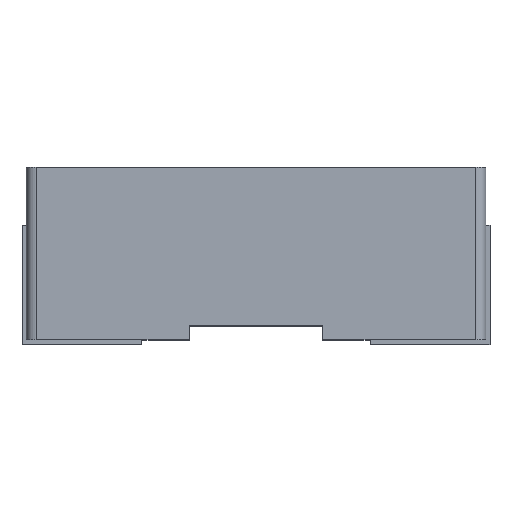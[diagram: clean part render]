
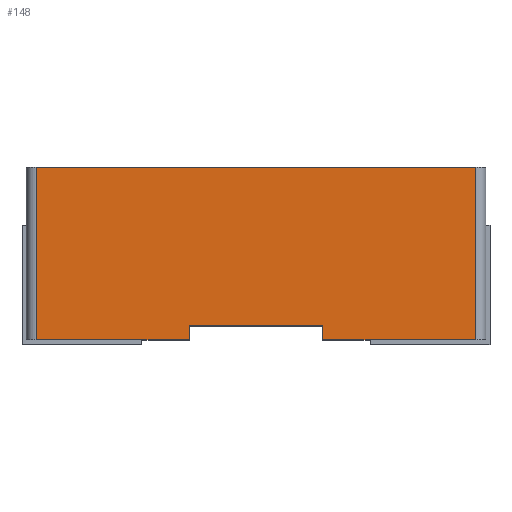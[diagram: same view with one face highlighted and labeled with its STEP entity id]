
A CAD part, top view. The second image highlights one B-rep face of the part: STEP entity #148.
In plain terms, the highlighted planar face has unit normal (0, 0, 1).
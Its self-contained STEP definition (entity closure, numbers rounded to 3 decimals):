
#14 = CARTESIAN_POINT ( 'NONE',  ( 0.07, 0.604, 0.364 ) ) ;
#18 = CARTESIAN_POINT ( 'NONE',  ( 3.2, 0.604, 0.364 ) ) ;
#38 = CARTESIAN_POINT ( 'NONE',  ( 3.2, -0.596, 0.364 ) ) ;
#42 = LINE ( 'NONE', #827, #527 ) ;
#92 = DIRECTION ( 'NONE',  ( 0., 1., 0. ) ) ;
#93 = DIRECTION ( 'NONE',  ( 0., 0., -1. ) ) ;
#95 = EDGE_CURVE ( 'NONE', #386, #423, #317, .T. ) ;
#100 = VECTOR ( 'NONE', #390, 1000. ) ;
#107 = EDGE_CURVE ( 'NONE', #467, #122, #304, .T. ) ;
#114 = VERTEX_POINT ( 'NONE', #656 ) ;
#122 = VERTEX_POINT ( 'NONE', #249 ) ;
#129 = LINE ( 'NONE', #847, #898 ) ;
#148 = ADVANCED_FACE ( 'NONE', ( #619 ), #388, .F. ) ;
#179 = VERTEX_POINT ( 'NONE', #550 ) ;
#193 = ORIENTED_EDGE ( 'NONE', *, *, #719, .F. ) ;
#249 = CARTESIAN_POINT ( 'NONE',  ( 2.065, -0.496, 0.364 ) ) ;
#302 = CARTESIAN_POINT ( 'NONE',  ( 2.065, -0.596, 0.364 ) ) ;
#304 = LINE ( 'NONE', #724, #100 ) ;
#305 = VECTOR ( 'NONE', #369, 1000. ) ;
#315 = CARTESIAN_POINT ( 'NONE',  ( 2.065, 0.604, 0.364 ) ) ;
#317 = LINE ( 'NONE', #653, #809 ) ;
#322 = VERTEX_POINT ( 'NONE', #690 ) ;
#362 = VECTOR ( 'NONE', #394, 1000. ) ;
#369 = DIRECTION ( 'NONE',  ( -1., 0., 0. ) ) ;
#386 = VERTEX_POINT ( 'NONE', #14 ) ;
#388 = PLANE ( 'NONE',  #407 ) ;
#390 = DIRECTION ( 'NONE',  ( 1., 0., 0. ) ) ;
#394 = DIRECTION ( 'NONE',  ( -1., 0., 0. ) ) ;
#402 = EDGE_CURVE ( 'NONE', #322, #386, #42, .T. ) ;
#407 = AXIS2_PLACEMENT_3D ( 'NONE', #18, #93, #789 ) ;
#423 = VERTEX_POINT ( 'NONE', #842 ) ;
#431 = LINE ( 'NONE', #507, #305 ) ;
#467 = VERTEX_POINT ( 'NONE', #558 ) ;
#491 = EDGE_CURVE ( 'NONE', #114, #322, #878, .T. ) ;
#495 = VERTEX_POINT ( 'NONE', #302 ) ;
#507 = CARTESIAN_POINT ( 'NONE',  ( 3.2, -0.596, 0.364 ) ) ;
#527 = VECTOR ( 'NONE', #554, 1000. ) ;
#531 = ORIENTED_EDGE ( 'NONE', *, *, #107, .T. ) ;
#535 = EDGE_CURVE ( 'NONE', #122, #495, #855, .T. ) ;
#545 = VECTOR ( 'NONE', #92, 1000. ) ;
#550 = CARTESIAN_POINT ( 'NONE',  ( 1.135, -0.596, 0.364 ) ) ;
#552 = EDGE_CURVE ( 'NONE', #179, #467, #129, .T. ) ;
#554 = DIRECTION ( 'NONE',  ( -1., 0., 0. ) ) ;
#558 = CARTESIAN_POINT ( 'NONE',  ( 1.135, -0.496, 0.364 ) ) ;
#560 = ORIENTED_EDGE ( 'NONE', *, *, #491, .T. ) ;
#566 = VECTOR ( 'NONE', #586, 1000. ) ;
#574 = CARTESIAN_POINT ( 'NONE',  ( 3.13, 0.604, 0.364 ) ) ;
#577 = EDGE_LOOP ( 'NONE', ( #193, #560, #732, #737, #712, #722, #531, #636 ) ) ;
#586 = DIRECTION ( 'NONE',  ( 0., -1., 0. ) ) ;
#619 = FACE_OUTER_BOUND ( 'NONE', #577, .T. ) ;
#636 = ORIENTED_EDGE ( 'NONE', *, *, #535, .T. ) ;
#637 = DIRECTION ( 'NONE',  ( 0., -1., 0. ) ) ;
#653 = CARTESIAN_POINT ( 'NONE',  ( 0.07, 0.604, 0.364 ) ) ;
#656 = CARTESIAN_POINT ( 'NONE',  ( 3.13, -0.596, 0.364 ) ) ;
#690 = CARTESIAN_POINT ( 'NONE',  ( 3.13, 0.604, 0.364 ) ) ;
#712 = ORIENTED_EDGE ( 'NONE', *, *, #851, .F. ) ;
#719 = EDGE_CURVE ( 'NONE', #114, #495, #891, .T. ) ;
#722 = ORIENTED_EDGE ( 'NONE', *, *, #552, .T. ) ;
#724 = CARTESIAN_POINT ( 'NONE',  ( 3.2, -0.496, 0.364 ) ) ;
#732 = ORIENTED_EDGE ( 'NONE', *, *, #402, .T. ) ;
#737 = ORIENTED_EDGE ( 'NONE', *, *, #95, .T. ) ;
#771 = DIRECTION ( 'NONE',  ( 0., 1., 0. ) ) ;
#789 = DIRECTION ( 'NONE',  ( 0., 1., 0. ) ) ;
#809 = VECTOR ( 'NONE', #637, 1000. ) ;
#827 = CARTESIAN_POINT ( 'NONE',  ( 3.2, 0.604, 0.364 ) ) ;
#842 = CARTESIAN_POINT ( 'NONE',  ( 0.07, -0.596, 0.364 ) ) ;
#847 = CARTESIAN_POINT ( 'NONE',  ( 1.135, 0.604, 0.364 ) ) ;
#851 = EDGE_CURVE ( 'NONE', #179, #423, #431, .T. ) ;
#855 = LINE ( 'NONE', #315, #566 ) ;
#878 = LINE ( 'NONE', #574, #545 ) ;
#891 = LINE ( 'NONE', #38, #362 ) ;
#898 = VECTOR ( 'NONE', #771, 1000. ) ;
